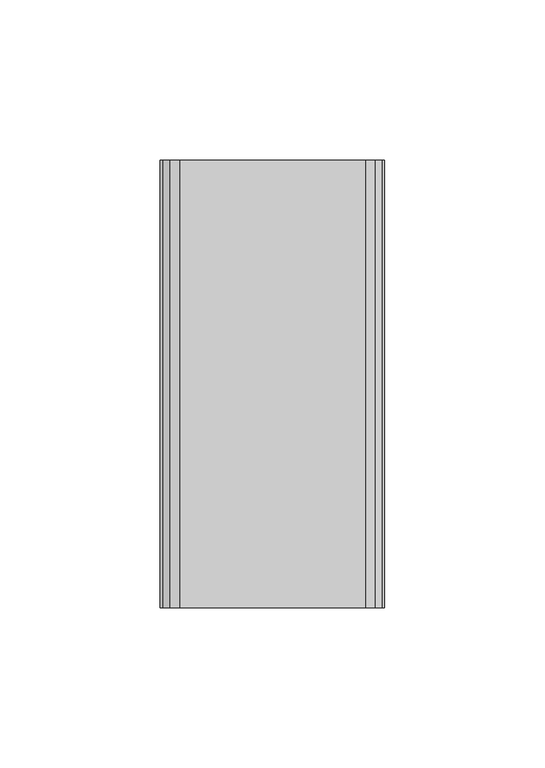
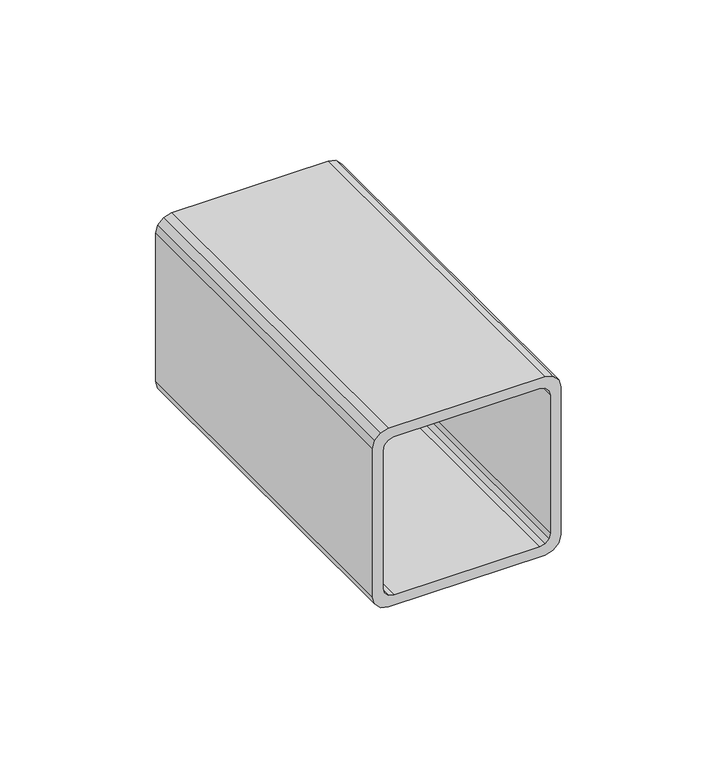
"""IFC4 building model written with IfcOpenShell, lengths in millimetres: beam geometry,  200760 :  200760."""

from ifc_helpers import new_model, si_unit, frame, origin, place, context, project, spatial, polyline, outline, extrude, source, transform, mapped, element, save


def beam_58fbcf30(model_context):
    return source(origin(), model_context, "Body", "SweptSolid", [
        extrude(outline(polyline([(3090.9478709, 22.8791579), (3087.9478709, 23.6830055), (3085.7517184, 25.8791579), (3084.9478709, 28.8791579), (3084.9478709, 86.8791579), (3085.7517184, 89.8791579), (3087.9478709, 92.0753103), (3090.9478709, 92.8791579), (3148.9478709, 92.8791579), (3151.9478709, 92.0753103), (3154.1440233, 89.8791579), (3154.9478709, 86.8791579), (3154.9478709, 28.8791579), (3154.1440233, 25.8791579), (3151.9478709, 23.6830055), (3148.9478709, 22.8791579), (3090.9478709, 22.8791579)]), holes=[polyline([(3146.9478709, 26.8791579), (3148.9478709, 27.4150563), (3150.4119725, 28.8791579), (3150.9478709, 30.8791579), (3150.9478709, 84.8791579), (3150.4119725, 86.8791579), (3148.9478709, 88.3432595), (3146.9478709, 88.8791579), (3092.9478709, 88.8791579), (3090.9478709, 88.3432595), (3089.4837692, 86.8791579), (3088.9478709, 84.8791579), (3088.9478709, 30.8791579), (3089.4837692, 28.8791579), (3090.9478709, 27.4150563), (3092.9478709, 26.8791579), (3146.9478709, 26.8791579)])]), frame((0.0, -114.45, 0.0), z_axis=(0.0, 1.0, 0.0), x_axis=(0.0, 0.0, 1.0)), (0.0, 0.0, 1.0), 139.45),
    ])


if __name__ == "__main__":
    model = new_model("IFC4")
    model_context = context("Model", 3, world=origin())
    ifc_project = project(units=[si_unit("LENGTHUNIT", "METRE", prefix="MILLI")], contexts=[model_context])
    site = spatial("IfcSite", under=ifc_project)
    building = spatial("IfcBuilding", under=site)
    placement = place(None, origin())
    beam_shape = beam_58fbcf30(model_context)
    element("IfcBeam", 1, ObjectType=" 200760 :  200760", at=placement, inside=building, context=model_context, shape_type="MappedRepresentation", body=[
        mapped(beam_shape, transform((0.0, 0.0, 0.0), x_axis=(1.0, 0.0, 0.0), y_axis=(0.0, 1.0, 0.0), z_axis=(0.0, 0.0, 1.0))),
    ])
    save(model, "model.ifc")
